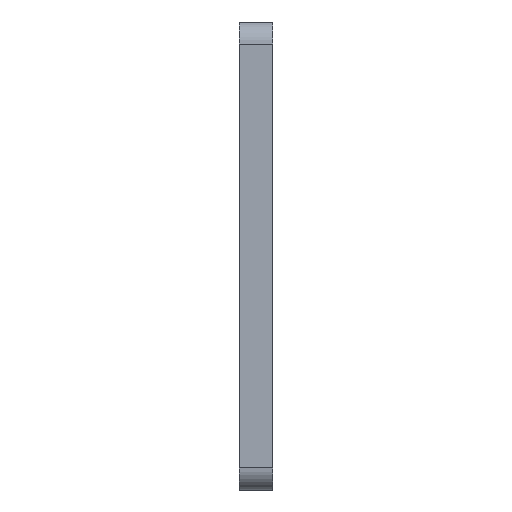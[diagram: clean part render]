
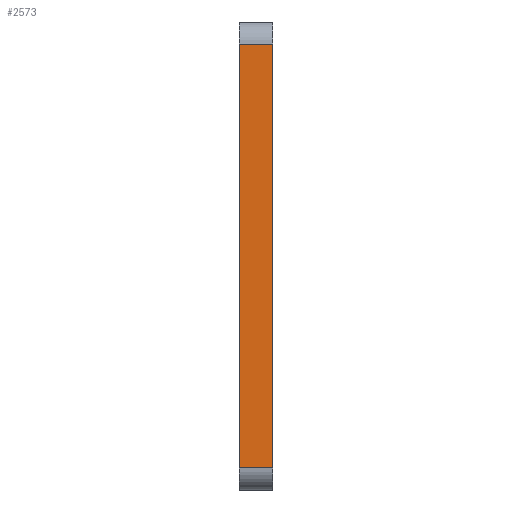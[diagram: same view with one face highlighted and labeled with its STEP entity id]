
A CAD part, left-side view. The second image highlights one B-rep face of the part: STEP entity #2573.
In plain terms, the highlighted planar face has unit normal (-1, 0, 0).
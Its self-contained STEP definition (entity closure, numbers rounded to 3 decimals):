
#388 = LINE ( 'NONE', #9587, #2338 ) ;
#603 = LINE ( 'NONE', #3706, #5211 ) ;
#730 = LINE ( 'NONE', #3825, #3476 ) ;
#2001 = VERTEX_POINT ( 'NONE', #6459 ) ;
#2338 = VECTOR ( 'NONE', #3495, 1000. ) ;
#2364 = DIRECTION ( 'NONE',  ( 0., -1., 0. ) ) ;
#2573 = ADVANCED_FACE ( 'NONE', ( #2889 ), #8459, .F. ) ;
#2840 = VERTEX_POINT ( 'NONE', #8487 ) ;
#2889 = FACE_OUTER_BOUND ( 'NONE', #8167, .T. ) ;
#2959 = CARTESIAN_POINT ( 'NONE',  ( -665., 0., 95. ) ) ;
#3288 = AXIS2_PLACEMENT_3D ( 'NONE', #9937, #6013, #6830 ) ;
#3476 = VECTOR ( 'NONE', #2364, 1000. ) ;
#3495 = DIRECTION ( 'NONE',  ( 0., 0., 1. ) ) ;
#3706 = CARTESIAN_POINT ( 'NONE',  ( -665., 15., 95. ) ) ;
#3825 = CARTESIAN_POINT ( 'NONE',  ( -665., 15., -95. ) ) ;
#3837 = VERTEX_POINT ( 'NONE', #7863 ) ;
#3985 = EDGE_CURVE ( 'NONE', #2001, #3837, #388, .T. ) ;
#4423 = LINE ( 'NONE', #9711, #7723 ) ;
#5211 = VECTOR ( 'NONE', #9712, 1000. ) ;
#5569 = ORIENTED_EDGE ( 'NONE', *, *, #7877, .T. ) ;
#5980 = ORIENTED_EDGE ( 'NONE', *, *, #9065, .T. ) ;
#6013 = DIRECTION ( 'NONE',  ( 1., 0., 0. ) ) ;
#6019 = VERTEX_POINT ( 'NONE', #2959 ) ;
#6459 = CARTESIAN_POINT ( 'NONE',  ( -665., 15., -95. ) ) ;
#6737 = ORIENTED_EDGE ( 'NONE', *, *, #8584, .T. ) ;
#6830 = DIRECTION ( 'NONE',  ( 0., 0., -1. ) ) ;
#7723 = VECTOR ( 'NONE', #9805, 1000. ) ;
#7863 = CARTESIAN_POINT ( 'NONE',  ( -665., 15., 95. ) ) ;
#7877 = EDGE_CURVE ( 'NONE', #6019, #3837, #603, .T. ) ;
#7984 = ORIENTED_EDGE ( 'NONE', *, *, #3985, .F. ) ;
#8167 = EDGE_LOOP ( 'NONE', ( #6737, #5569, #7984, #5980 ) ) ;
#8459 = PLANE ( 'NONE',  #3288 ) ;
#8487 = CARTESIAN_POINT ( 'NONE',  ( -665., 0., -95. ) ) ;
#8584 = EDGE_CURVE ( 'NONE', #2840, #6019, #4423, .T. ) ;
#9065 = EDGE_CURVE ( 'NONE', #2001, #2840, #730, .T. ) ;
#9587 = CARTESIAN_POINT ( 'NONE',  ( -665., 15., -105. ) ) ;
#9711 = CARTESIAN_POINT ( 'NONE',  ( -665., 0., -105. ) ) ;
#9712 = DIRECTION ( 'NONE',  ( 0., 1., 0. ) ) ;
#9805 = DIRECTION ( 'NONE',  ( 0., 0., 1. ) ) ;
#9937 = CARTESIAN_POINT ( 'NONE',  ( -665., 15., -105. ) ) ;
